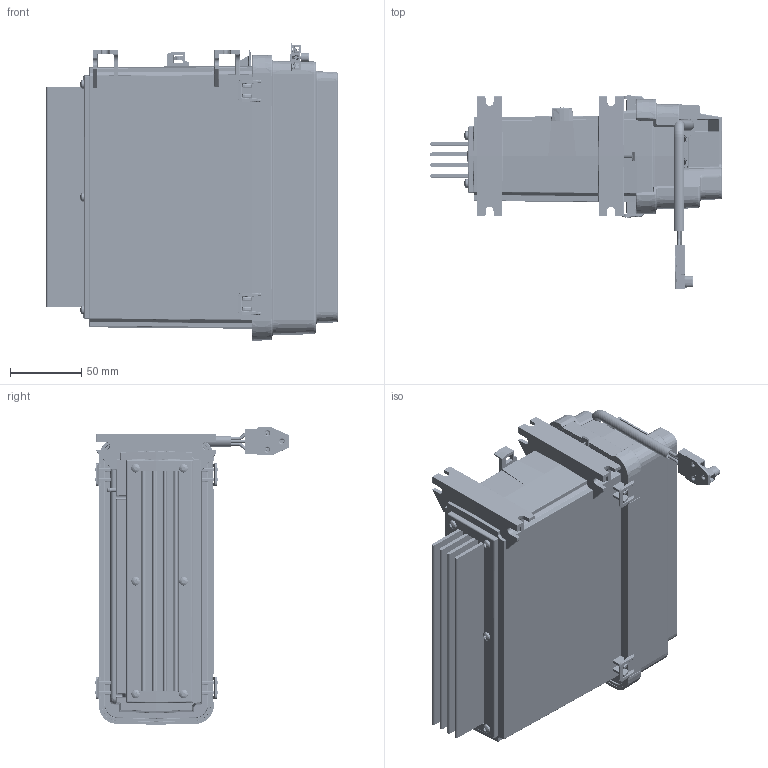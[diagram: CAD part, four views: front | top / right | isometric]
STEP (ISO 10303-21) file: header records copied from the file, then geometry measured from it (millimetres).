
FILE_DESCRIPTION((''),'2;1');
FILE_NAME('105N4932_ASM','2026-01-29T13:25:32',('dehc5875'),(''),'CREO PARAMETRIC BY PTC INC, 2022162','CREO PARAMETRIC BY PTC INC, 2022162','');
FILE_SCHEMA(('AP203_CONFIGURATION_CONTROLLED_3D_DESIGN_OF_MECHANICAL_PARTS_AND_ASSEMBLIES_MIM_LF { 1 0 10303 403 2 1 2 }'));
Products named in the file (17): 105B4541_1_1; 640N0044_1_1; 105B4546_1_1; 105B9090_ASM_1_ASM_1_ASM; 640N2628_1_1; 640N0360_1_1; 105B4548_SAE_1_1; 105B1082_ASM_1_ASM_1_ASM; 105B4547_1_1; 105B4542_1_1; 105B4459_1_1; 105B4545_1_1; 640N2369_1_1; 105A0300_1_1; 105A0299_1_1; 640N2416_1_1; 105N4932_ASM
Assembly tree (40 placements, depth 4):
  105N4932_ASM
    105B4541_1_1
    105B1082_ASM_1_ASM_1_ASM
      640N0044_1_1  x11
      105B9090_ASM_1_ASM_1_ASM
        105B4546_1_1
      640N2628_1_1  x3
      640N0360_1_1  x3
      105B4548_SAE_1_1
    105B4547_1_1
    105B4542_1_1
    105B4459_1_1  x3
    105B4545_1_1
    640N2369_1_1  x4
    105A0300_1_1
    105A0299_1_1
    640N2416_1_1  x6
Bounding box: 203.9 x 135.9 x 207.98 mm (x, y, z)
Surface area: 464478.3 mm2 (no closed solid volume)
Topology: 0 solids, 106 shells, 10731 faces, 29747 edges, 19254 vertices
Faces by surface type: plane 5163, cylinder 2739, bspline 968, torus 601, cone 595, extrusion 447, sphere 218
Entity records: 352740 total; most frequent: CARTESIAN_POINT 109750, ORIENTED_EDGE 52188, DIRECTION 45672, EDGE_CURVE 27201, VECTOR 18770, LINE 18323, VERTEX_POINT 17761, AXIS2_PLACEMENT_3D 13451
